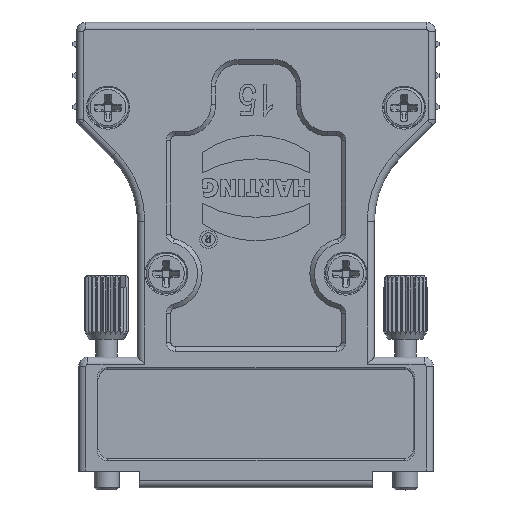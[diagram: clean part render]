
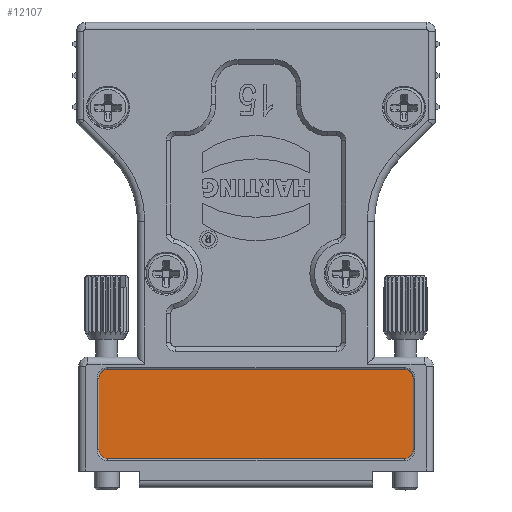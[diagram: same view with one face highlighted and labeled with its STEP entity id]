
A CAD part, top view. The second image highlights one B-rep face of the part: STEP entity #12107.
In plain terms, the highlighted planar face has unit normal (0, 0, 1).
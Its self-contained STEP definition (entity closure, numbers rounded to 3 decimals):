
#12107=ADVANCED_FACE('',(#14816),#13589,.T.);
#13589=PLANE('',#43086);
#14816=FACE_OUTER_BOUND('',#16454,.T.);
#16454=EDGE_LOOP('',(#21531,#21532,#21533,#21534,#21535,#21536,#21537,#21538));
#21531=ORIENTED_EDGE('',*,*,#31329,.F.);
#21532=ORIENTED_EDGE('',*,*,#31332,.F.);
#21533=ORIENTED_EDGE('',*,*,#31335,.F.);
#21534=ORIENTED_EDGE('',*,*,#31338,.F.);
#21535=ORIENTED_EDGE('',*,*,#31341,.F.);
#21536=ORIENTED_EDGE('',*,*,#31344,.F.);
#21537=ORIENTED_EDGE('',*,*,#31347,.F.);
#21538=ORIENTED_EDGE('',*,*,#31349,.F.);
#27839=VERTEX_POINT('',#56852);
#27841=VERTEX_POINT('',#56856);
#27843=VERTEX_POINT('',#56862);
#27845=VERTEX_POINT('',#56868);
#27847=VERTEX_POINT('',#56874);
#27849=VERTEX_POINT('',#56880);
#27851=VERTEX_POINT('',#56886);
#27853=VERTEX_POINT('',#56892);
#31329=EDGE_CURVE('',#27841,#27839,#35213,.T.);
#31332=EDGE_CURVE('',#27843,#27841,#40089,.T.);
#31335=EDGE_CURVE('',#27845,#27843,#35217,.T.);
#31338=EDGE_CURVE('',#27847,#27845,#40091,.T.);
#31341=EDGE_CURVE('',#27849,#27847,#35221,.T.);
#31344=EDGE_CURVE('',#27851,#27849,#40093,.T.);
#31347=EDGE_CURVE('',#27853,#27851,#35225,.T.);
#31349=EDGE_CURVE('',#27839,#27853,#40095,.T.);
#35213=LINE('',#56857,#38325);
#35217=LINE('',#56869,#38329);
#35221=LINE('',#56881,#38333);
#35225=LINE('',#56893,#38337);
#38325=VECTOR('',#48136,1.);
#38329=VECTOR('',#48148,1.);
#38333=VECTOR('',#48160,1.);
#38337=VECTOR('',#48172,1.);
#40089=CIRCLE('',#43072,1.);
#40091=CIRCLE('',#43076,1.);
#40093=CIRCLE('',#43080,1.);
#40095=CIRCLE('',#43084,1.);
#43072=AXIS2_PLACEMENT_3D('',#56863,#48142,#48143);
#43076=AXIS2_PLACEMENT_3D('',#56875,#48154,#48155);
#43080=AXIS2_PLACEMENT_3D('',#56887,#48166,#48167);
#43084=AXIS2_PLACEMENT_3D('',#56896,#48177,#48178);
#43086=AXIS2_PLACEMENT_3D('',#56898,#48181,#48182);
#48136=DIRECTION('',(0.,-1.,0.));
#48142=DIRECTION('',(0.,0.,-1.));
#48143=DIRECTION('',(-1.,0.,0.));
#48148=DIRECTION('',(1.,0.,0.));
#48154=DIRECTION('',(0.,0.,-1.));
#48155=DIRECTION('',(-1.,0.,0.));
#48160=DIRECTION('',(0.,1.,0.));
#48166=DIRECTION('',(0.,0.,-1.));
#48167=DIRECTION('',(-1.,0.,0.));
#48172=DIRECTION('',(-1.,0.,0.));
#48177=DIRECTION('',(0.,0.,-1.));
#48178=DIRECTION('',(-1.,0.,0.));
#48181=DIRECTION('',(0.,0.,1.));
#48182=DIRECTION('',(1.,0.,0.));
#56852=CARTESIAN_POINT('',(17.5,2.35,14.3));
#56856=CARTESIAN_POINT('',(17.5,10.35,14.3));
#56857=CARTESIAN_POINT('',(17.5,2.35,14.3));
#56862=CARTESIAN_POINT('',(16.5,11.35,14.3));
#56863=CARTESIAN_POINT('',(16.5,10.35,14.3));
#56868=CARTESIAN_POINT('',(-16.5,11.35,14.3));
#56869=CARTESIAN_POINT('',(16.5,11.35,14.3));
#56874=CARTESIAN_POINT('',(-17.5,10.35,14.3));
#56875=CARTESIAN_POINT('',(-16.5,10.35,14.3));
#56880=CARTESIAN_POINT('',(-17.5,2.35,14.3));
#56881=CARTESIAN_POINT('',(-17.5,10.35,14.3));
#56886=CARTESIAN_POINT('',(-16.5,1.35,14.3));
#56887=CARTESIAN_POINT('',(-16.5,2.35,14.3));
#56892=CARTESIAN_POINT('',(16.5,1.35,14.3));
#56893=CARTESIAN_POINT('',(-16.5,1.35,14.3));
#56896=CARTESIAN_POINT('',(16.5,2.35,14.3));
#56898=CARTESIAN_POINT('',(16.5,10.35,14.3));
